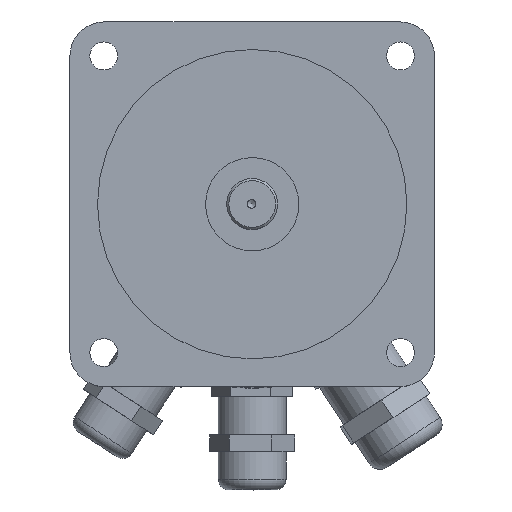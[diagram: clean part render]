
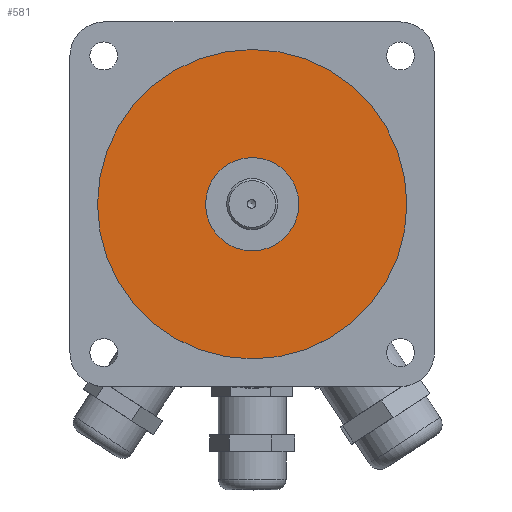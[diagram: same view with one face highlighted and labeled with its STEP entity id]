
A CAD part, top view. The second image highlights one B-rep face of the part: STEP entity #581.
In plain terms, the highlighted planar face has unit normal (0, 0, 1).
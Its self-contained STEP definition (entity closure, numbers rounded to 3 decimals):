
#554=CARTESIAN_POINT('',(-69.773,-89.811,149.505));
#555=DIRECTION('',(0.0,0.0,-1.0));
#556=DIRECTION('',(1.0,0.0,0.0));
#557=AXIS2_PLACEMENT_3D('',#554,#555,#556);
#558=PLANE('',#557);
#559=CARTESIAN_POINT('',(-106.273,-89.811,149.505));
#560=VERTEX_POINT('',#559);
#561=CARTESIAN_POINT('',(-69.773,-89.811,149.505));
#562=DIRECTION('',(0.0,0.0,-1.0));
#563=DIRECTION('',(1.0,0.0,0.0));
#564=AXIS2_PLACEMENT_3D('',#561,#562,#563);
#565=CIRCLE('',#564,36.5);
#566=EDGE_CURVE('',#560,#560,#565,.T.);
#567=ORIENTED_EDGE('',*,*,#566,.F.);
#568=EDGE_LOOP('',(#567));
#569=FACE_OUTER_BOUND('',#568,.T.);
#570=CARTESIAN_POINT('',(-80.773,-89.811,149.505));
#571=VERTEX_POINT('',#570);
#572=CARTESIAN_POINT('',(-69.773,-89.811,149.505));
#573=DIRECTION('',(0.0,0.0,-1.0));
#574=DIRECTION('',(1.0,0.0,0.0));
#575=AXIS2_PLACEMENT_3D('',#572,#573,#574);
#576=CIRCLE('',#575,11.0);
#577=EDGE_CURVE('',#571,#571,#576,.T.);
#578=ORIENTED_EDGE('',*,*,#577,.T.);
#579=EDGE_LOOP('',(#578));
#580=FACE_BOUND('',#579,.T.);
#581=ADVANCED_FACE('',(#569,#580),#558,.F.);
